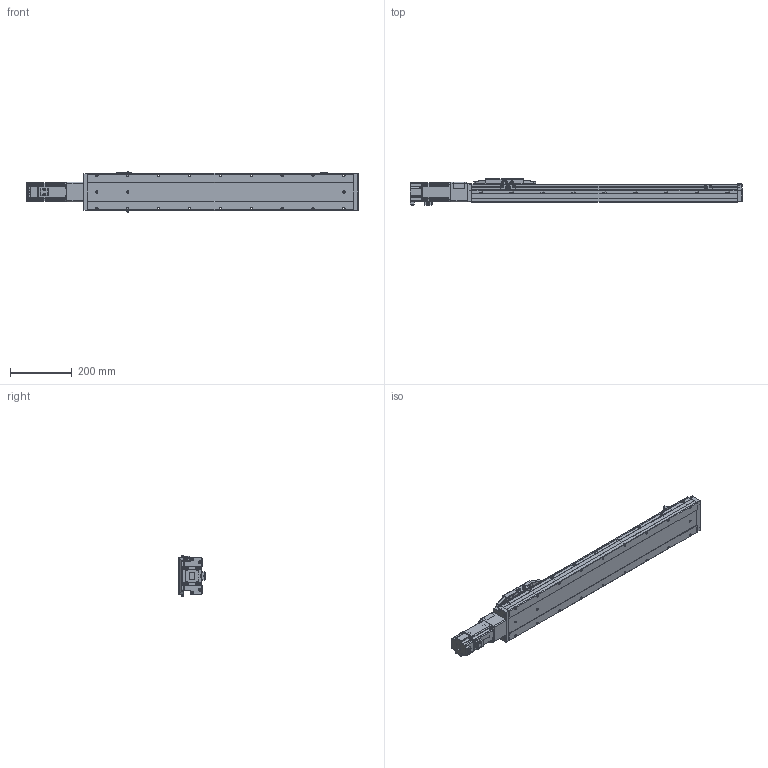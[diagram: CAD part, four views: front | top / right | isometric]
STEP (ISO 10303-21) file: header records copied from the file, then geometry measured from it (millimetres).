
FILE_DESCRIPTION (( 'STEP AP214' ), '1' );
FILE_NAME ('CTH12-L10-S650-BC-C40（简）.STEP', '2023-02-06T05:14:50', ( '' ), ( '' ), 'SwSTEP 2.0', 'SolidWorks 2018', '' );
FILE_SCHEMA (( 'AUTOMOTIVE_DESIGN' ));
Length unit declared in the file: millimetre
Products named in the file (23): 400W萇儂; CTH12覜茼え; CTH12底座-L861简（650行程）; 湮賑怢  裔赽-1(CTH12)賑怢; CTH12-BC-03_1; 内六角圆柱头螺钉M3; 嫖萇羲壽郪磁2; 内六角圆柱头螺钉M3-1; CTH12-BL_body_4; 嫖萇羲壽郪磁1333; hex nuts, style 1-grades ab gb_GB_FASTENER_NUT_SNAB1 M3-N; PM-Y45; CTH12萇儂釱; CTH12; CTH12-BC-06-T40（cth8-bc-06-t40-G）_1; 内六角圆柱头螺钉M3-2; M5蹟隊; 蚐郲; CTH12賑怢郪磁; CTH12_body_3; CTH嫖萇羲壽假蚾啣; CTH12-L10-S650-BC-C40（简）; CTH12賑怢ㄗ潠ㄘ
Assembly tree (43 placements, depth 4):
  CTH12-L10-S650-BC-C40（简）
    CTH12底座-L861简（650行程）
    蚐郲  x2
    CTH12-BL_body_4
    CTH12_body_3
    CTH12賑怢郪磁
      CTH12
        湮賑怢  裔赽-1(CTH12)賑怢
        CTH12賑怢ㄗ潠ㄘ
    CTH12覜茼え
    嫖萇羲壽郪磁2
      CTH嫖萇羲壽假蚾啣
      PM-Y45
      内六角圆柱头螺钉M3-1  x2
      内六角圆柱头螺钉M3-2  x2
      hex nuts, style 1-grades ab gb_GB_FASTENER_NUT_SNAB1 M3-N  x2
    CTH12萇儂釱
      CTH12-BC-03_1
      CTH12-BC-06-T40（cth8-bc-06-t40-G）_1
    嫖萇羲壽郪磁1333  x2
      CTH嫖萇羲壽假蚾啣
      PM-Y45
      内六角圆柱头螺钉M3-2
      内六角圆柱头螺钉M3-1
      hex nuts, style 1-grades ab gb_GB_FASTENER_NUT_SNAB1 M3-N
    内六角圆柱头螺钉M3  x6
    400W萇儂
    M5蹟隊  x4
Bounding box: 1075.8 x 86.5 x 131.52 mm (x, y, z)
Volume: 6143418.5 mm3; surface area: 612843 mm2
Topology: 45 solids, 47 shells, 2915 faces, 7229 edges, 4539 vertices
Faces by surface type: plane 1440, cylinder 878, cone 335, bspline 134, torus 124, sphere 4
Entity records: 90424 total; most frequent: CARTESIAN_POINT 30902, ORIENTED_EDGE 11560, DIRECTION 11275, EDGE_CURVE 5780, AXIS2_PLACEMENT_3D 3957, VERTEX_POINT 3643, LINE 3361, VECTOR 3361
